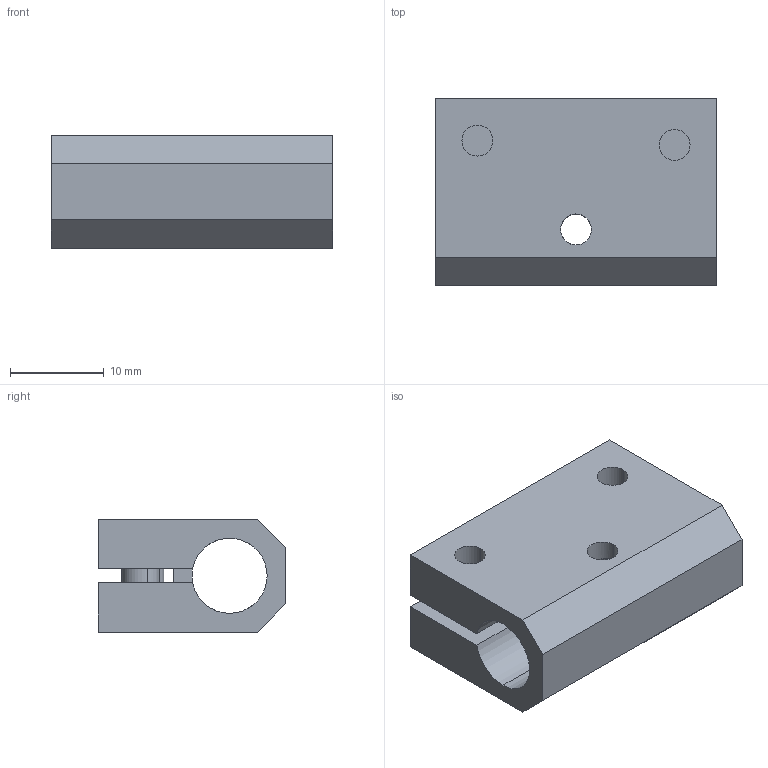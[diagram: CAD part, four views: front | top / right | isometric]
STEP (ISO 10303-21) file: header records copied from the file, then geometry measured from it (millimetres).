
FILE_DESCRIPTION (( 'STEP AP214' ), '1' );
FILE_NAME ('SMBF-0808T.STEP', '2022-12-28T08:19:14', ( 'Windows User' ), ( 'P R C' ), 'SwSTEP 2.0', 'SolidWorks 2018', '' );
FILE_SCHEMA (( 'AUTOMOTIVE_DESIGN' ));
Length unit declared in the file: millimetre
Products named in the file (4): PTC-M4L10; SMBF-0808; PTS-M4; SMBF-0808T
Assembly tree (5 placements, depth 2):
  SMBF-0808T
    SMBF-0808
    PTC-M4L10  x2
    PTS-M4  x2
Bounding box: 30 x 20 x 12.05 mm (x, y, z)
Volume: 4442.1 mm3; surface area: 4399.6 mm2
Topology: 5 solids, 5 shells, 394 faces, 1150 edges, 764 vertices
Faces by surface type: plane 358, cylinder 36
Entity records: 7574 total; most frequent: CARTESIAN_POINT 1376, DIRECTION 1288, ORIENTED_EDGE 1256, EDGE_CURVE 628, AXIS2_PLACEMENT_3D 440, VERTEX_POINT 416, LINE 408, VECTOR 408
